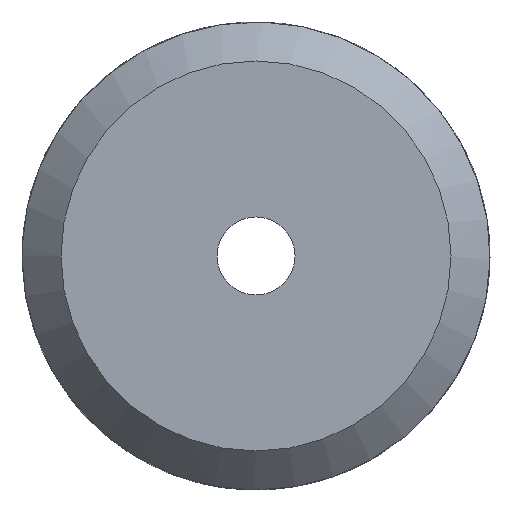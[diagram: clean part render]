
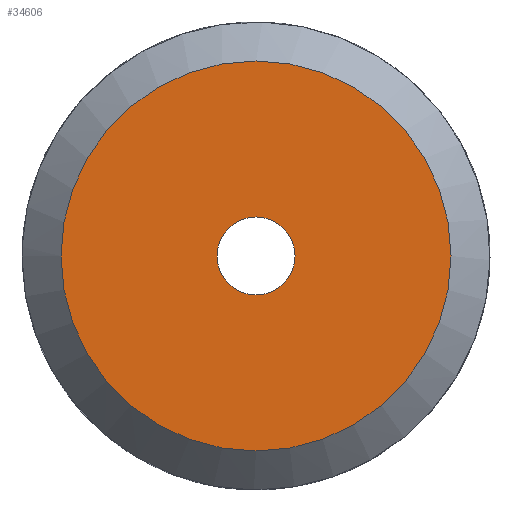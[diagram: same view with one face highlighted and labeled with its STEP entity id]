
A CAD part, left-side view. The second image highlights one B-rep face of the part: STEP entity #34606.
In plain terms, the highlighted planar face has unit normal (-1, 0, 0).
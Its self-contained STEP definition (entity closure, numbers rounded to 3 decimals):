
#9857=PLANE('',#34208);
#12724=ORIENTED_EDGE('',*,*,#13700,.F.);
#12725=ORIENTED_EDGE('',*,*,#14681,.F.);
#12727=CIRCLE('',#33640,2.5);
#13012=CIRCLE('',#34207,0.5);
#13014=VERTEX_POINT('',#16445);
#13698=VERTEX_POINT('',#33633);
#13700=EDGE_CURVE('',#13014,#13014,#12727,.T.);
#14681=EDGE_CURVE('',#13698,#13698,#13012,.T.);
#14987=EDGE_LOOP('',(#12724));
#14988=EDGE_LOOP('',(#12725));
#15294=FACE_BOUND('',#14987,.T.);
#15295=FACE_BOUND('',#14988,.T.);
#15300=DIRECTION('',(1.,0.,0.));
#15301=DIRECTION('',(0.,0.,-2.5));
#16434=DIRECTION('',(-1.,0.,0.));
#16435=DIRECTION('',(0.,0.,0.5));
#16436=DIRECTION('',(-1.,0.,0.));
#16437=DIRECTION('',(0.,1.,0.));
#16445=CARTESIAN_POINT('',(61.747,154.922,-2.5));
#16446=CARTESIAN_POINT('',(61.747,154.922,0.));
#33633=CARTESIAN_POINT('',(61.747,154.922,0.5));
#33634=CARTESIAN_POINT('',(61.747,154.922,0.));
#33635=CARTESIAN_POINT('',(61.747,154.922,-2.5));
#33640=AXIS2_PLACEMENT_3D('',#16446,#15300,#15301);
#34207=AXIS2_PLACEMENT_3D('',#33634,#16434,#16435);
#34208=AXIS2_PLACEMENT_3D('',#33635,#16436,#16437);
#34606=ADVANCED_FACE('',(#15294,#15295),#9857,.T.);
